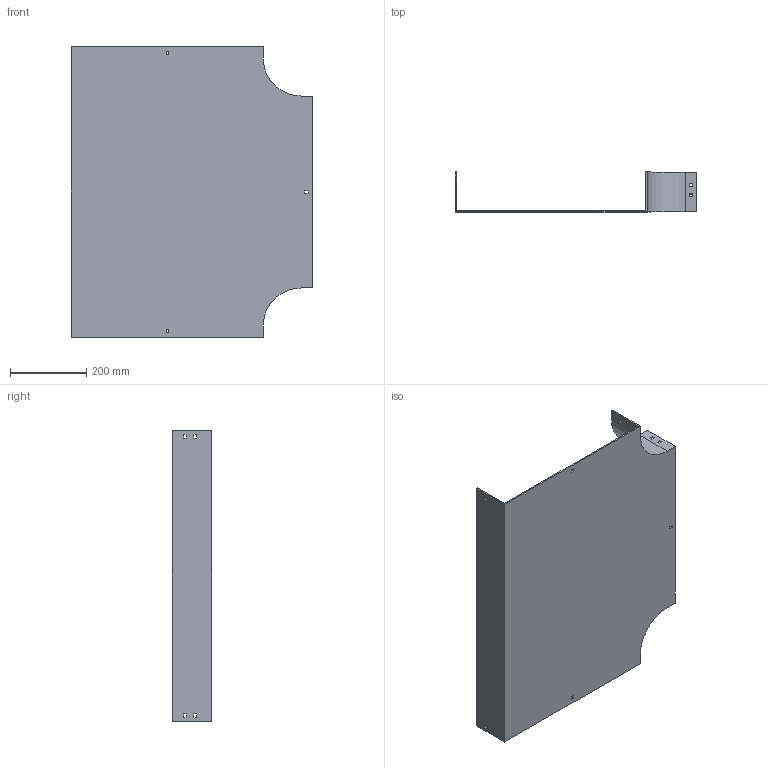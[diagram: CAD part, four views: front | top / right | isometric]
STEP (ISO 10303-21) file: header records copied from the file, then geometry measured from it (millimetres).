
FILE_DESCRIPTION (( 'STEP AP214' ), '1' );
FILE_NAME ('15F1D500.step', '2025-02-21T13:03:52', ( '' ), ( '' ), 'SwSTEP 2.0', 'SolidWorks 2023', '' );
FILE_SCHEMA (( 'AUTOMOTIVE_DESIGN' ));
Length unit declared in the file: millimetre
Products named in the file (1): 15F1D500
Bounding box: 634 x 104 x 764 mm (x, y, z)
Volume: 2011870.2 mm3; surface area: 1162989.7 mm2
Topology: 1 solids, 1 shells, 82 faces, 240 edges, 160 vertices
Faces by surface type: plane 78, cylinder 4
Entity records: 2755 total; most frequent: CARTESIAN_POINT 483, ORIENTED_EDGE 480, DIRECTION 414, EDGE_CURVE 240, VECTOR 232, LINE 232, VERTEX_POINT 160, EDGE_LOOP 112
